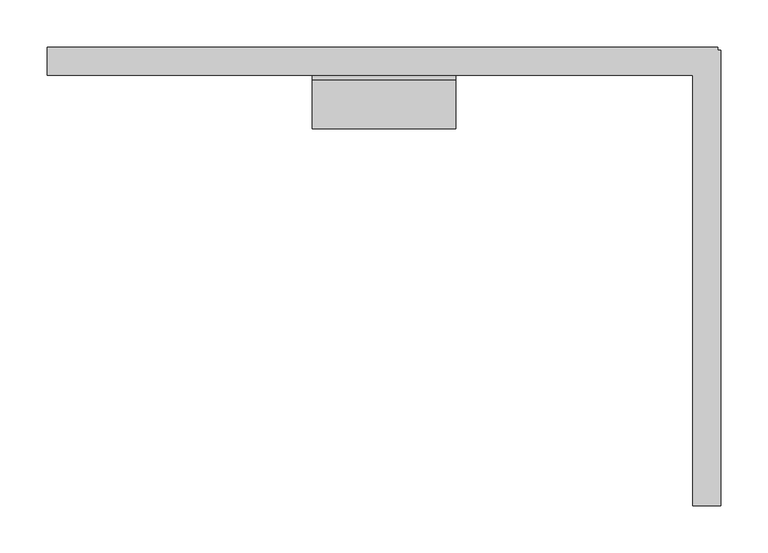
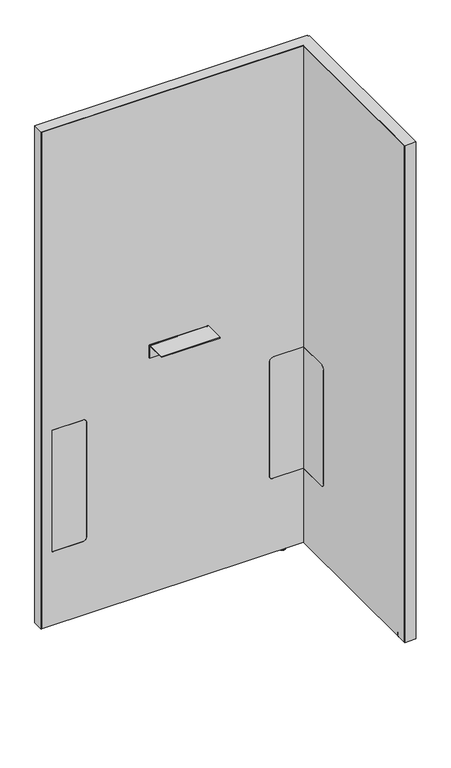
"""IFC4 building model written with IfcOpenShell, lengths in millimetres: furniture geometry, Steelcase - Answer Solution - Boundary Screen - L Return - Single Sided : 54H x 27W."""

import ifcopenshell
import ifcopenshell.guid

model = None  # the IFC model being written
_history = None  # IfcOwnerHistory: only IFC2X3 demands one
_inside = {}  # id of a spatial element -> (the spatial element, [elements in it])
_under = {}  # id of a project, library or spatial element -> (it, [spatial elements below it])
_declared = {}  # id of a project -> (the project, [libraries it declares])
_typed = {}  # id of a type object -> (the type object, [elements of that type])
_made_of = {}  # id of a material, layer set ... -> (it, [elements and type objects made of it])


def new_model(schema):
    """Start an empty IFC model of exactly this schema.

    Asked for "IFC4X3", IfcOpenShell would pick the latest addendum, in which some entities
    have other attributes; the version numbers below select the first issue.
    IFC2X3 requires an IfcOwnerHistory on every rooted entity: one is made here for all.
    """
    global model, _history
    if schema == "IFC4X3":
        model = ifcopenshell.file(schema_version=(4, 3, 0, 0))
    else:
        model = ifcopenshell.file(schema=schema)
    _inside.clear()
    _under.clear()
    _declared.clear()
    _typed.clear()
    _made_of.clear()
    _history = None
    if model.schema == "IFC2X3":
        org = make("IfcOrganization", Name="unknown")
        user = make(
            "IfcPersonAndOrganization",
            ThePerson=make("IfcPerson", FamilyName="unknown"),
            TheOrganization=org,
        )
        app = make(
            "IfcApplication",
            ApplicationDeveloper=org,
            Version="unknown",
            ApplicationFullName="unknown",
            ApplicationIdentifier="unknown",
        )
        _history = make(
            "IfcOwnerHistory",
            OwningUser=user,
            OwningApplication=app,
            ChangeAction="ADDED",
            CreationDate=0,
        )
    return model


def make(cls, **values):
    """One entity of the class cls with the attributes given. An attribute that is None is left unset."""
    return model.create_entity(
        cls, **{name: value for name, value in values.items() if value is not None}
    )


def rooted(cls, **values):
    """An entity with a GlobalId (a new one), such as an element, a storey or a relation."""
    return make(cls, GlobalId=ifcopenshell.guid.new(), OwnerHistory=_history, **values)


def si_unit(unit_type, name, prefix=None):
    """IfcSIUnit, for example si_unit("LENGTHUNIT", "METRE", prefix="MILLI")."""
    return make("IfcSIUnit", UnitType=unit_type, Prefix=prefix, Name=name)


def assignment(units):
    """IfcUnitAssignment: the units of a project."""
    return None if units is None else make("IfcUnitAssignment", Units=units)


def point(xyz):
    """IfcCartesianPoint."""
    return None if xyz is None else make("IfcCartesianPoint", Coordinates=xyz)


def direction(xyz):
    """IfcDirection."""
    return None if xyz is None else make("IfcDirection", DirectionRatios=xyz)


def frame(location, z_axis=None, x_axis=None):
    """IfcAxis2Placement3D, a coordinate frame: its origin and axes. An axis left out is left unset."""
    return make(
        "IfcAxis2Placement3D",
        Location=point(location),
        Axis=direction(z_axis),
        RefDirection=direction(x_axis),
    )


def frame_2d(location, x_axis=None):
    """IfcAxis2Placement2D, a coordinate frame in the plane: its origin and x axis."""
    return make(
        "IfcAxis2Placement2D", Location=point(location), RefDirection=direction(x_axis)
    )


def origin():
    """The frame at (0, 0, 0) with its axes left unset."""
    return frame((0.0, 0.0, 0.0))


def place(relative_to, where):
    """IfcLocalPlacement: puts the frame where relative to a parent placement (None: the world)."""
    return make(
        "IfcLocalPlacement", PlacementRelTo=relative_to, RelativePlacement=where
    )


def context(
    kind, dimensions, precision=None, world=None, true_north=None, identifier=None
):
    """IfcGeometricRepresentationContext, for example the 3D "Model" context."""
    return make(
        "IfcGeometricRepresentationContext",
        ContextIdentifier=identifier,
        ContextType=kind,
        CoordinateSpaceDimension=dimensions,
        Precision=precision,
        WorldCoordinateSystem=world,
        TrueNorth=true_north,
    )


def project(units=None, contexts=None):
    """IfcProject with its units and contexts."""
    return rooted(
        "IfcProject",
        Name="project",
        RepresentationContexts=contexts,
        UnitsInContext=assignment(units),
    )


def spatial(cls, under=None, at=None, **own):
    """A site, building, storey or space (cls), placed at a placement, below another one or the project."""
    s = rooted(cls, ObjectPlacement=at, **own)
    if under is not None:
        _under.setdefault(under.id(), (under, []))[1].append(s)
    return s


def polyline(points):
    """IfcPolyline through the points."""
    return make("IfcPolyline", Points=[point(p) for p in points])


def circle_curve(where, radius):
    """IfcCircle in the frame where."""
    return make("IfcCircle", Position=where, Radius=radius)


def ellipse_curve(where, semi_axis1, semi_axis2):
    """IfcEllipse in the frame where."""
    return make(
        "IfcEllipse", Position=where, SemiAxis1=semi_axis1, SemiAxis2=semi_axis2
    )


def trimmed(basis, trim1, trim2, sense, master):
    """IfcTrimmedCurve: the piece of a basis curve between two trims."""
    return make(
        "IfcTrimmedCurve",
        BasisCurve=basis,
        Trim1=trim1,
        Trim2=trim2,
        SenseAgreement=sense,
        MasterRepresentation=master,
    )


def segment(curve, same_sense, transition):
    """IfcCompositeCurveSegment."""
    return make(
        "IfcCompositeCurveSegment",
        Transition=transition,
        SameSense=same_sense,
        ParentCurve=curve,
    )


def composite_curve(segments, self_intersect=None):
    """IfcCompositeCurve: segments joined end to end."""
    return make("IfcCompositeCurve", Segments=segments, SelfIntersect=self_intersect)


def outline(outer, holes=None, kind="AREA"):
    """IfcArbitraryClosedProfileDef: a profile drawn as a closed curve; with holes, ...WithVoids."""
    if holes is None:
        return make("IfcArbitraryClosedProfileDef", ProfileType=kind, OuterCurve=outer)
    return make(
        "IfcArbitraryProfileDefWithVoids",
        ProfileType=kind,
        OuterCurve=outer,
        InnerCurves=holes,
    )


def extrude(swept, where, along, depth):
    """IfcExtrudedAreaSolid: the profile swept, set in the frame where, extruded along a direction by depth."""
    return make(
        "IfcExtrudedAreaSolid",
        SweptArea=swept,
        Position=where,
        ExtrudedDirection=direction(along),
        Depth=depth,
    )


def faces_of(points, faces, orient=None, outer=None):
    """IfcFace entities. A face is a list of loops; a loop is a list of indices into points, from 0.

    orient and outer hold one flag for each loop. By default every Orientation is true, the
    first loop of a face is its IfcFaceOuterBound and the others are IfcFaceBound.
    """
    made = []
    for i, loops in enumerate(faces):
        bounds = []
        for j, loop in enumerate(loops):
            is_outer = j == 0 if outer is None else outer[i][j]
            bounds.append(
                make(
                    "IfcFaceOuterBound" if is_outer else "IfcFaceBound",
                    Bound=make("IfcPolyLoop", Polygon=[points[k] for k in loop]),
                    Orientation=True if orient is None else orient[i][j],
                )
            )
        made.append(make("IfcFace", Bounds=bounds))
    return made


def faceted_brep(points, faces, orient=None, outer=None, voids=None):
    """IfcFacetedBrep: a solid bounded by flat faces; with voids (closed shells), ...WithVoids."""
    shared = [point(p) for p in points]
    hull = make("IfcClosedShell", CfsFaces=faces_of(shared, faces, orient, outer))
    if voids is None:
        return make("IfcFacetedBrep", Outer=hull)
    return make(
        "IfcFacetedBrepWithVoids",
        Outer=hull,
        Voids=[
            make(cls, CfsFaces=faces_of(shared, fs, o, b)) for cls, fs, o, b in voids
        ],
    )


def shape(context_of_items, identifier, shape_type, items):
    """IfcShapeRepresentation: the items that make up one representation, for example the "Body"."""
    return make(
        "IfcShapeRepresentation",
        ContextOfItems=context_of_items,
        RepresentationIdentifier=identifier,
        RepresentationType=shape_type,
        Items=items,
    )


def source(mapping_origin, context_of_items, identifier, shape_type, items):
    """IfcRepresentationMap: a shape defined once, which mapped items show again and again."""
    return make(
        "IfcRepresentationMap",
        MappingOrigin=mapping_origin,
        MappedRepresentation=shape(context_of_items, identifier, shape_type, items),
    )


def transform(
    local_origin,
    x_axis=None,
    y_axis=None,
    z_axis=None,
    scale=None,
    scale2=None,
    scale3=None,
    uniform=True,
):
    """IfcCartesianTransformationOperator3D, or its non-uniform kind. x_axis, y_axis, z_axis: its Axis1, 2, 3."""
    if uniform:
        return make(
            "IfcCartesianTransformationOperator3D",
            Axis1=direction(x_axis),
            Axis2=direction(y_axis),
            LocalOrigin=point(local_origin),
            Scale=scale,
            Axis3=direction(z_axis),
        )
    return make(
        "IfcCartesianTransformationOperator3DnonUniform",
        Axis1=direction(x_axis),
        Axis2=direction(y_axis),
        LocalOrigin=point(local_origin),
        Scale=scale,
        Axis3=direction(z_axis),
        Scale2=scale2,
        Scale3=scale3,
    )


def mapped(mapping_source, mapping_target):
    """IfcMappedItem: shows the shape of a source again, moved by a transform."""
    return make(
        "IfcMappedItem", MappingSource=mapping_source, MappingTarget=mapping_target
    )


def made_of(thing, what):
    """Note that an element or type object is made of a material, layer set ...; save() writes the relation."""
    if what is not None:
        _made_of.setdefault(what.id(), (what, []))[1].append(thing)
    return thing


def element(
    cls,
    number,
    at=None,
    inside=None,
    cuts=None,
    type_object=None,
    material=None,
    context=None,
    identifier="Body",
    shape_type=None,
    held_by="IfcProductDefinitionShape",
    body=None,
    shapes=None,
    **own,
):
    """One element of the class cls, such as IfcWall. Its Tag is "e" and its number.

    at: its placement. inside: the storey or other place that contains it. cuts: it is an
    opening in that element (IfcRelVoidsElement). A single representation is given by context,
    identifier, shape_type and body (its items); several are given by shapes. held_by: the class
    of the entity that holds the representations. save() writes the other relations.
    """
    e = rooted(cls, Tag="e%d" % number, ObjectPlacement=at, **own)
    if body is not None:
        shapes = [shape(context, identifier, shape_type, body)]
    if shapes is not None:
        e.Representation = make(held_by, Representations=shapes)
    if inside is not None:
        _inside.setdefault(inside.id(), (inside, []))[1].append(e)
    if cuts is not None:
        rooted(
            "IfcRelVoidsElement", RelatingBuildingElement=cuts, RelatedOpeningElement=e
        )
    if type_object is not None:
        _typed.setdefault(type_object.id(), (type_object, []))[1].append(e)
    return made_of(e, material)


def aggregate(whole, parts):
    """IfcRelAggregates: a whole, such as a stair, and the parts it consists of."""
    return rooted("IfcRelAggregates", RelatingObject=whole, RelatedObjects=parts)


def save(model, path):
    """Write the relations noted so far, then the file.

    IfcRelAggregates (storeys below a building ...), IfcRelContainedInSpatialStructure (elements
    in a storey), IfcRelDefinesByType, IfcRelAssociatesMaterial and IfcRelDeclares: one each for
    every whole, place, type object, material and project.
    """
    for whole, parts in _under.values():
        aggregate(whole, parts)
    for where, things in _inside.values():
        rooted(
            "IfcRelContainedInSpatialStructure",
            RelatedElements=things,
            RelatingStructure=where,
        )
    for kind, things in _typed.values():
        rooted("IfcRelDefinesByType", RelatedObjects=things, RelatingType=kind)
    for what, things in _made_of.values():
        rooted("IfcRelAssociatesMaterial", RelatedObjects=things, RelatingMaterial=what)
    for by, libraries in _declared.values():
        rooted("IfcRelDeclares", RelatingContext=by, RelatedDefinitions=libraries)
    model.write(path)


def plane_surface(at):
    """IfcPlane: the flat surface through the origin of the frame at, square to its z axis."""
    return make("IfcPlane", Position=at)


def cylinder_surface(at, radius):
    """IfcCylindricalSurface: all points at the distance radius from the z axis of the frame at."""
    return make("IfcCylindricalSurface", Position=at, Radius=radius)


def revolved_surface(curve, axis_point, axis_direction):
    """IfcSurfaceOfRevolution: the curve turned about the line through axis_point along axis_direction."""
    return make(
        "IfcSurfaceOfRevolution",
        SweptCurve=make("IfcArbitraryOpenProfileDef", ProfileType="CURVE", Curve=curve),
        AxisPosition=make("IfcAxis1Placement", Location=point(axis_point), Axis=direction(axis_direction)),
    )


def advanced_brep(points, edges, surfaces, faces):
    """IfcAdvancedBrep: a solid bounded by faces that lie on surfaces and meet in shared edges.

    An edge is (start, end): straight between two places in points (the first is 0);
    or (start, end, curve); or (start, end, curve, False) where it runs against its curve.
    A face is (place in surfaces, loops), or (place, loops, False) where it looks against
    its surface's normal. A loop lists edges by number (the first is 1), with a minus sign
    where the edge is run from its end to its start. The first loop is the outer one.
    """
    corners = [point(p) for p in points]
    vertices = [make("IfcVertexPoint", VertexGeometry=c) for c in corners]
    made = []
    for start, end, *more in edges:
        made.append(
            make(
                "IfcEdgeCurve",
                EdgeStart=vertices[start],
                EdgeEnd=vertices[end],
                EdgeGeometry=more[0] if more else make("IfcPolyline", Points=[corners[start], corners[end]]),
                SameSense=more[1] if len(more) > 1 else True,
            )
        )
    hull = []
    for where, loops, *sense in faces:
        bounds = []
        for j, loop in enumerate(loops):
            ring = [make("IfcOrientedEdge", EdgeElement=made[abs(k) - 1], Orientation=k > 0) for k in loop]
            bounds.append(
                make(
                    "IfcFaceOuterBound" if j == 0 else "IfcFaceBound",
                    Bound=make("IfcEdgeLoop", EdgeList=ring),
                    Orientation=True,
                )
            )
        hull.append(make("IfcAdvancedFace", Bounds=bounds, FaceSurface=surfaces[where], SameSense=sense[0] if sense else True))
    return make("IfcAdvancedBrep", Outer=make("IfcClosedShell", CfsFaces=hull))


def furniture_b410c2c3(model_context):
    return source(origin(), model_context, "Body", "SolidModel", [
        extrude(outline(composite_curve([segment(polyline([(-109.3501471, 549.6162029), (-29.0550397, 549.6162029), (-29.0550397, 213.7762137), (-109.3501471, 213.7762137)]), True, "CONTINUOUS"), segment(trimmed(circle_curve(frame_2d((-109.3501471, 223.9362137)), 10.16), [point((-109.3501471, 213.7762137))], [point((-119.5101471, 223.9362137))], False, "CARTESIAN"), True, "CONTINUOUS"), segment(polyline([(-119.5101471, 223.9362137), (-119.5101471, 539.4562029)]), True, "CONTINUOUS"), segment(trimmed(circle_curve(frame_2d((-109.3501471, 539.4562029)), 10.16), [point((-119.5101471, 539.4562029))], [point((-109.3501471, 549.6162029))], False, "CARTESIAN"), True, "CONTINUOUS")], self_intersect=False)), frame((915.6191891, 0.0, 0.0), z_axis=(1.0, 0.0, 0.0), x_axis=(0.0, 1.0, 0.0)), (0.0, 0.0, 1.0), 0.6401544),
        advanced_brep(
        [(930.4672074, -448.0136072, 0.0), (937.4216144, -448.0136072, 0.0), (923.5128003, -448.0136072, 0.0), (938.8762685, -448.0136072, 1.2700001), (922.0581463, -448.0136072, 1.2700001), (938.8762685, -448.0136072, 2.9673238), (922.0581463, -448.0136072, 2.9673238), (939.8427877, -448.0136072, 2.9673238), (921.091627, -448.0136072, 2.9673238), (939.8427877, -448.0136072, 9.9059849), (921.091627, -448.0136072, 9.9059849), (930.4672074, -448.0136072, 9.9059849)],
        [
            (0, 1),
            (1, 2, circle_curve(frame((930.4672074, -448.0136072, 0.0), z_axis=(0.0, 0.0, -1.0), x_axis=(1.0, 0.0, 0.0)), 6.9544071)),
            (2, 0),
            (2, 1, circle_curve(frame((930.4672074, -448.0136072, 0.0), z_axis=(0.0, 0.0, -1.0), x_axis=(1.0, 0.0, 0.0)), 6.9544071)),
            (1, 3, circle_curve(frame((937.5945484, -448.0136072, 1.2700001), z_axis=(0.0, -1.0, 0.0), x_axis=(0.0, 0.0, 1.0)), 1.2817201)),
            (3, 4, circle_curve(frame((930.4672074, -448.0136072, 1.2700001), z_axis=(0.0, 0.0, -1.0), x_axis=(1.0, 0.0, 0.0)), 8.4090611)),
            (4, 2, circle_curve(frame((923.3398663, -448.0136072, 1.2700001), z_axis=(0.0, -1.0, 0.0), x_axis=(0.0, 0.0, 1.0)), 1.2817201)),
            (4, 3, circle_curve(frame((930.4672074, -448.0136072, 1.2700001), z_axis=(0.0, 0.0, -1.0), x_axis=(1.0, 0.0, 0.0)), 8.4090611)),
            (3, 5),
            (5, 6, circle_curve(frame((930.4672074, -448.0136072, 2.9673238), z_axis=(0.0, 0.0, -1.0), x_axis=(1.0, 0.0, 0.0)), 8.4090611)),
            (6, 4),
            (6, 5, circle_curve(frame((930.4672074, -448.0136072, 2.9673238), z_axis=(0.0, 0.0, -1.0), x_axis=(1.0, 0.0, 0.0)), 8.4090611)),
            (5, 7),
            (7, 8, circle_curve(frame((930.4672074, -448.0136072, 2.9673238), z_axis=(0.0, 0.0, -1.0), x_axis=(1.0, 0.0, 0.0)), 9.3755804)),
            (8, 6),
            (8, 7, circle_curve(frame((930.4672074, -448.0136072, 2.9673238), z_axis=(0.0, 0.0, -1.0), x_axis=(1.0, 0.0, 0.0)), 9.3755804)),
            (7, 9),
            (9, 10, circle_curve(frame((930.4672074, -448.0136072, 9.9059849), z_axis=(0.0, 0.0, -1.0), x_axis=(1.0, 0.0, 0.0)), 9.3755804)),
            (10, 8),
            (10, 9, circle_curve(frame((930.4672074, -448.0136072, 9.9059849), z_axis=(0.0, 0.0, -1.0), x_axis=(1.0, 0.0, 0.0)), 9.3755804)),
            (9, 11),
            (11, 10),
        ],
        [
            plane_surface(frame((930.4672074, -448.0136072, 0.0), z_axis=(0.0, 0.0, -1.0), x_axis=(1.0, 0.0, 0.0))),
            revolved_surface(trimmed(ellipse_curve(frame((937.5945484, -448.0136072, 1.2700001), z_axis=(0.0, 1.0, 0.0), x_axis=(0.0, 0.0, 1.0)), 1.2817201, 1.2817201), [point((938.8762685, -448.0136072, 1.2700001))], [point((937.4216144, -448.0136072, 0.0))], True, "CARTESIAN"), (930.4672074, -448.0136072, 9.9059849), (0.0, 0.0, -1.0)),
            cylinder_surface(frame((930.4672074, -448.0136072, 9.9059849), z_axis=(0.0, 0.0, -1.0), x_axis=(1.0, 0.0, 0.0)), 8.4090611),
            plane_surface(frame((930.4672074, -448.0136072, 2.9673238), z_axis=(0.0, 0.0, -1.0), x_axis=(1.0, 0.0, 0.0))),
            cylinder_surface(frame((930.4672074, -448.0136072, 9.9059849), z_axis=(0.0, 0.0, -1.0), x_axis=(1.0, 0.0, 0.0)), 9.3755804),
            plane_surface(frame((930.4672074, -448.0136072, 9.9059849), z_axis=(0.0, 0.0, 1.0), x_axis=(1.0, 0.0, 0.0))),
        ],
        [
            (0, [[1, 2, 3]]),
            (0, [[-3, 4, -1]]),
            (1, [[-2, 5, 6, 7]]),
            (1, [[-4, -7, 8, -5]]),
            (2, [[-6, 9, 10, 11]]),
            (2, [[-8, -11, 12, -9]]),
            (3, [[-10, 13, 14, 15]]),
            (3, [[-12, -15, 16, -13]]),
            (4, [[-14, 17, 18, 19]]),
            (4, [[-16, -19, 20, -17]]),
            (5, [[-18, 21, 22]]),
            (5, [[-20, -22, -21]]),
        ],
    ),
        faceted_brep([(942.0531179, 0.0, 1382.522), (942.0531179, 0.0, 9.9059849), (941.0621491, 0.0, 9.9059849), (941.0621491, 0.0, 1381.542118), (230.8097779, 0.0, 1381.542118), (230.8097779, 0.0, 9.9059849), (229.8191891, 0.0, 9.9059849), (229.8191891, 0.0, 1382.522), (229.8191891, -29.6898332, 1382.522), (229.8191891, -29.6898332, 9.9059849), (230.8097779, -29.6898332, 9.9059849), (230.8097779, -29.6898332, 1381.542118), (915.6191891, -29.6898332, 1381.542118), (915.6191891, -29.6898332, 1382.522), (941.0621491, -29.6898332, 1381.542118), (941.0621491, -29.6898332, 9.9059849), (942.0531179, -29.6898332, 9.9059849), (942.0531179, -29.6898332, 1381.542118), (942.0531179, -3.2625916, 1382.522), (942.0531179, -3.2625916, 9.9059849), (942.0531179, -4.252647, 9.9059849), (942.0531179, -4.252647, 1381.542118), (945.3152256, -3.2625916, 9.9059849), (945.3152256, -4.252647, 9.9059849), (941.0621491, -4.252647, 9.9059849), (915.6191891, -4.252647, 9.9059849), (915.6191891, -3.2625916, 9.9059849), (941.0621491, -3.2625916, 9.9059849), (915.6191891, -486.8898332, 1382.522), (945.3152256, -486.8898332, 1382.522), (945.3152256, -3.2625916, 1382.522), (941.0621491, -3.2625916, 1381.542118), (941.0621491, -4.252647, 1381.542118), (915.6191891, -3.2625916, 1381.542118), (915.6191891, -4.252647, 1381.542118), (945.3152256, -4.252647, 1381.542118), (945.3152256, -485.899196, 1381.542118), (915.6191891, -485.899196, 1381.542118), (915.6191891, -485.899196, 9.9059849), (915.6191891, -486.8898332, 9.9059849), (945.3152256, -486.8898332, 9.9059849), (945.3152256, -485.899196, 9.9059849)], [[[0, 1, 2, 3, 4, 5, 6, 7]], [[8, 9, 10, 11, 12, 13]], [[14, 15, 16, 17]], [[1, 0, 18, 19]], [[17, 16, 20, 21]], [[2, 1, 19, 22, 23, 20, 16, 15, 24, 25, 26, 27]], [[7, 6, 9, 8]], [[0, 7, 8, 13, 28, 29, 30, 18]], [[3, 2, 27, 31]], [[15, 14, 32, 24]], [[4, 3, 31, 33, 34, 32, 14, 17, 21, 35, 36, 37, 12, 11]], [[5, 4, 11, 10]], [[6, 5, 10, 9]], [[26, 25, 34, 33]], [[37, 38, 39, 28, 13, 12]], [[29, 40, 41, 36, 35, 23, 22, 30]], [[27, 26, 33, 31]], [[30, 22, 19, 18]], [[34, 25, 24, 32]], [[23, 35, 21, 20]], [[38, 37, 36, 41]], [[39, 38, 41, 40]], [[28, 39, 40, 29]]]),
        extrude(outline(composite_curve([segment(polyline([(-86.8398151, 696.4680019), (-86.8398151, 698.5), (-34.9450855, 698.5)]), True, "CONTINUOUS"), segment(trimmed(circle_curve(frame_2d((-34.9450855, 693.2447477)), 5.2552523), [point((-34.9450855, 698.5))], [point((-29.6898332, 693.2447477))], False, "CARTESIAN"), True, "CONTINUOUS"), segment(polyline([(-29.6898332, 693.2447477), (-29.6898332, 660.4), (-31.7218162, 660.4), (-31.7218162, 693.0058743)]), True, "CONTINUOUS"), segment(trimmed(circle_curve(frame_2d((-35.1839438, 693.0058743)), 3.4621276), [point((-31.7218162, 693.0058743))], [point((-35.1839438, 696.4680019))], True, "CARTESIAN"), True, "CONTINUOUS"), segment(polyline([(-35.1839438, 696.4680019), (-86.8398151, 696.4680019)]), True, "CONTINUOUS")], self_intersect=False)), frame((511.3685899, 0.0, 0.0), z_axis=(1.0, 0.0, 0.0), x_axis=(0.0, 1.0, 0.0)), (0.0, 0.0, 1.0), 152.4000969),
        advanced_brep(
        [(868.1246853, -23.7588726, 9.9059849), (868.1246853, -5.9309607, 9.9059849), (868.1246853, -14.8449166, 9.9059849), (868.1246853, -23.7588726, 2.9673238), (868.1246853, -5.9309607, 2.9673238), (868.1246853, -22.7915354, 2.9673238), (868.1246853, -6.8982978, 2.9673238), (868.1246853, -22.7915354, 1.6569081), (868.1246853, -6.8982978, 1.6569081), (868.1246853, -21.1346274, 0.0), (868.1246853, -8.5552059, 0.0), (868.1246853, -14.8449166, 0.0)],
        [
            (0, 1, circle_curve(frame((868.1246853, -14.8449166, 9.9059849), z_axis=(0.0, 0.0, 1.0), x_axis=(0.0, 1.0, 0.0)), 8.913956)),
            (1, 2),
            (2, 0),
            (1, 0, circle_curve(frame((868.1246853, -14.8449166, 9.9059849), z_axis=(0.0, 0.0, 1.0), x_axis=(0.0, 1.0, 0.0)), 8.913956)),
            (3, 4, circle_curve(frame((868.1246853, -14.8449166, 2.9673238), z_axis=(0.0, 0.0, 1.0), x_axis=(0.0, 1.0, 0.0)), 8.913956)),
            (4, 1),
            (0, 3),
            (4, 3, circle_curve(frame((868.1246853, -14.8449166, 2.9673238), z_axis=(0.0, 0.0, 1.0), x_axis=(0.0, 1.0, 0.0)), 8.913956)),
            (5, 6, circle_curve(frame((868.1246853, -14.8449166, 2.9673238), z_axis=(0.0, 0.0, 1.0), x_axis=(0.0, 1.0, 0.0)), 7.9466188)),
            (6, 4),
            (3, 5),
            (6, 5, circle_curve(frame((868.1246853, -14.8449166, 2.9673238), z_axis=(0.0, 0.0, 1.0), x_axis=(0.0, 1.0, 0.0)), 7.9466188)),
            (7, 8, circle_curve(frame((868.1246853, -14.8449166, 1.6569081), z_axis=(0.0, 0.0, 1.0), x_axis=(0.0, 1.0, 0.0)), 7.9466188)),
            (8, 6),
            (5, 7),
            (8, 7, circle_curve(frame((868.1246853, -14.8449166, 1.6569081), z_axis=(0.0, 0.0, 1.0), x_axis=(0.0, 1.0, 0.0)), 7.9466188)),
            (9, 10, circle_curve(frame((868.1246853, -14.8449166, 0.0), z_axis=(0.0, 0.0, 1.0), x_axis=(0.0, 1.0, 0.0)), 6.2897107)),
            (10, 8, circle_curve(frame((868.1246853, -8.5552059, 1.6569081), z_axis=(1.0, 0.0, 0.0), x_axis=(0.0, 1.0, 0.0)), 1.6569081)),
            (7, 9, circle_curve(frame((868.1246853, -21.1346274, 1.6569081), z_axis=(1.0, 0.0, 0.0), x_axis=(0.0, -1.0, 0.0)), 1.6569081)),
            (10, 9, circle_curve(frame((868.1246853, -14.8449166, 0.0), z_axis=(0.0, 0.0, 1.0), x_axis=(0.0, 1.0, 0.0)), 6.2897107)),
            (11, 10),
            (9, 11),
        ],
        [
            plane_surface(frame((868.1246853, -14.8449166, 9.9059849), z_axis=(0.0, 0.0, 1.0), x_axis=(0.0, 1.0, 0.0))),
            cylinder_surface(frame((868.1246853, -14.8449166, 9.9059849), z_axis=(0.0, 0.0, -1.0), x_axis=(0.0, 1.0, 0.0)), 8.913956),
            plane_surface(frame((868.1246853, -14.8449166, 2.9673238), z_axis=(0.0, 0.0, -1.0), x_axis=(0.0, 1.0, 0.0))),
            cylinder_surface(frame((868.1246853, -14.8449166, 9.9059849), z_axis=(0.0, 0.0, -1.0), x_axis=(0.0, 1.0, 0.0)), 7.9466188),
            revolved_surface(trimmed(ellipse_curve(frame((868.1246853, -8.5552059, 1.6569081), z_axis=(-1.0, 0.0, 0.0), x_axis=(0.0, 1.0, 0.0)), 1.6569081, 1.6569081), [point((868.1246853, -6.8982978, 1.6569081))], [point((868.1246853, -8.5552059, 0.0))], True, "CARTESIAN"), (868.1246853, -14.8449166, 9.9059849), (0.0, 0.0, -1.0)),
            plane_surface(frame((868.1246853, -14.8449166, 0.0), z_axis=(0.0, 0.0, -1.0), x_axis=(0.0, 1.0, 0.0))),
        ],
        [
            (0, [[1, 2, 3]]),
            (0, [[4, -3, -2]]),
            (1, [[5, 6, -1, 7]]),
            (1, [[8, -7, -4, -6]]),
            (2, [[9, 10, -5, 11]]),
            (2, [[12, -11, -8, -10]]),
            (3, [[13, 14, -9, 15]]),
            (3, [[16, -15, -12, -14]]),
            (4, [[17, 18, -13, 19]]),
            (4, [[20, -19, -16, -18]]),
            (5, [[21, -17, 22]]),
            (5, [[-22, -20, -21]]),
        ],
    ),
        advanced_brep(
        [(230.8097779, 0.0, 1381.542118), (941.0621491, 0.0, 1381.542118), (941.0621491, 0.0, 9.9059849), (230.8097779, 0.0, 9.9059849), (347.9483813, -29.0550397, 539.4562029), (337.7883813, -29.0550397, 549.6162029), (258.1344836, -29.0550397, 549.6162029), (258.1344836, -29.0550397, 213.7762137), (337.7883813, -29.0550397, 213.7762137), (347.9483813, -29.0550397, 223.9362137), (916.2593435, -29.0550397, 213.7762137), (916.2593435, -29.0550397, 549.6162029), (835.7109268, -29.0550397, 549.6162029), (825.5509268, -29.0550397, 539.4562029), (825.5509268, -29.0550397, 223.9362137), (835.7109268, -29.0550397, 213.7762137), (230.8097779, -29.6898332, 1381.542118), (230.8097779, -29.6898332, 9.9059849), (915.6191891, -29.6898332, 9.9059849), (915.6191891, -29.6898332, 213.7762137), (835.7109268, -29.6898332, 213.7762137), (825.5509268, -29.6898332, 223.9362137), (825.5509268, -29.6898332, 539.4562029), (835.7109268, -29.6898332, 549.6162029), (915.6191891, -29.6898332, 549.6162029), (915.6191891, -29.6898332, 1381.542118), (337.7883813, -29.6898332, 549.6162029), (347.9483813, -29.6898332, 539.4562029), (347.9483813, -29.6898332, 223.9362137), (337.7883813, -29.6898332, 213.7762137), (258.1344836, -29.6898332, 213.7762137), (258.1344836, -29.6898332, 549.6162029), (941.0621491, -4.252647, 9.9059849), (945.3152256, -4.252647, 9.9059849), (945.3152256, -485.899196, 9.9059849), (915.6191891, -485.899196, 9.9059849), (941.0621491, -4.252647, 1381.542118), (915.6191891, -485.899196, 1381.542118), (945.3152256, -485.899196, 1381.542118), (945.3152256, -4.252647, 1381.542118), (916.2593435, -109.3501471, 549.6162029), (915.6191891, -109.3501471, 549.6162029), (916.2593435, -109.3501471, 213.7762137), (916.2593435, -119.5101471, 223.9362137), (916.2593435, -119.5101471, 539.4562029), (915.6191891, -109.3501471, 213.7762137), (915.6191891, -119.5101471, 539.4562029), (915.6191891, -119.5101471, 223.9362137)],
        [
            (0, 1),
            (1, 2),
            (2, 3),
            (3, 0),
            (4, 5, circle_curve(frame((337.7883813, -29.0550397, 539.4562029), z_axis=(0.0, -1.0, 0.0), x_axis=(0.0, 0.0, 1.0)), 10.16)),
            (5, 6),
            (6, 7),
            (7, 8),
            (8, 9, circle_curve(frame((337.7883813, -29.0550397, 223.9362137), z_axis=(0.0, -1.0, 0.0), x_axis=(0.0, 0.0, 1.0)), 10.16)),
            (9, 4),
            (10, 11),
            (11, 12),
            (12, 13, circle_curve(frame((835.7109268, -29.0550397, 539.4562029), z_axis=(0.0, -1.0, 0.0), x_axis=(0.0, 0.0, 1.0)), 10.16)),
            (13, 14),
            (14, 15, circle_curve(frame((835.7109268, -29.0550397, 223.9362137), z_axis=(0.0, -1.0, 0.0), x_axis=(0.0, 0.0, 1.0)), 10.16)),
            (15, 10),
            (16, 17),
            (17, 18),
            (18, 19),
            (19, 20),
            (20, 21, circle_curve(frame((835.7109268, -29.6898332, 223.9362137), z_axis=(0.0, 1.0, 0.0), x_axis=(0.0, 0.0, 1.0)), 10.16)),
            (21, 22),
            (22, 23, circle_curve(frame((835.7109268, -29.6898332, 539.4562029), z_axis=(0.0, 1.0, 0.0), x_axis=(0.0, 0.0, 1.0)), 10.16)),
            (23, 24),
            (24, 25),
            (25, 16),
            (26, 27, circle_curve(frame((337.7883813, -29.6898332, 539.4562029), z_axis=(0.0, 1.0, 0.0), x_axis=(0.0, 0.0, 1.0)), 10.16)),
            (27, 28),
            (28, 29, circle_curve(frame((337.7883813, -29.6898332, 223.9362137), z_axis=(0.0, 1.0, 0.0), x_axis=(0.0, 0.0, 1.0)), 10.16)),
            (29, 30),
            (30, 31),
            (31, 26),
            (16, 0),
            (3, 17),
            (2, 32),
            (32, 33),
            (33, 34),
            (34, 35),
            (35, 18),
            (1, 36),
            (36, 32),
            (25, 37),
            (37, 38),
            (38, 39),
            (39, 36),
            (26, 5),
            (4, 27),
            (9, 28),
            (8, 29),
            (7, 30),
            (6, 31),
            (11, 40),
            (40, 41),
            (41, 24),
            (23, 12),
            (42, 43, circle_curve(frame((916.2593435, -109.3501471, 223.9362137), z_axis=(-1.0, 0.0, 0.0), x_axis=(0.0, 1.0, 0.0)), 10.16)),
            (43, 44),
            (44, 40, circle_curve(frame((916.2593435, -109.3501471, 539.4562029), z_axis=(-1.0, 0.0, 0.0), x_axis=(0.0, 1.0, 0.0)), 10.16)),
            (10, 42),
            (15, 20),
            (19, 45),
            (45, 42),
            (14, 21),
            (13, 22),
            (35, 37),
            (41, 46, circle_curve(frame((915.6191891, -109.3501471, 539.4562029), z_axis=(1.0, 0.0, 0.0), x_axis=(0.0, 1.0, 0.0)), 10.16)),
            (46, 47),
            (47, 45, circle_curve(frame((915.6191891, -109.3501471, 223.9362137), z_axis=(1.0, 0.0, 0.0), x_axis=(0.0, 1.0, 0.0)), 10.16)),
            (38, 34),
            (33, 39),
            (44, 46),
            (43, 47),
        ],
        [
            plane_surface(frame((347.9483813, 0.0, 549.6162029), z_axis=(0.0, 1.0, 0.0), x_axis=(0.0, 0.0, -1.0))),
            plane_surface(frame((347.9483813, -29.0550397, 549.6162029), z_axis=(0.0, -1.0, 0.0), x_axis=(0.0, 0.0, 1.0))),
            plane_surface(frame((941.0621491, -29.6898332, 1381.542118), z_axis=(0.0, -1.0, 0.0), x_axis=(-1.0, 0.0, 0.0))),
            plane_surface(frame((230.8097779, 0.0, 9.9059849), z_axis=(-1.0, 0.0, 0.0), x_axis=(0.0, -1.0, 0.0))),
            plane_surface(frame((941.0621491, 0.0, 9.9059849), z_axis=(0.0, 0.0, -1.0), x_axis=(0.0, -1.0, 0.0))),
            plane_surface(frame((941.0621491, 0.0, 1381.542118), z_axis=(1.0, 0.0, 0.0), x_axis=(0.0, -1.0, 0.0))),
            plane_surface(frame((230.8097779, 0.0, 1381.542118), z_axis=(0.0, 0.0, 1.0), x_axis=(0.0, -1.0, 0.0))),
            revolved_surface(polyline([(337.7883813, -29.6898332, 549.6162029), (337.7883813, -29.0550397, 549.6162029)]), (337.7883813, -29.6898332, 539.4562029), (0.0, -1.0, 0.0)),
            plane_surface(frame((347.9483813, 0.0, 223.9362137), z_axis=(-1.0, 0.0, 0.0), x_axis=(0.0, -1.0, 0.0))),
            revolved_surface(polyline([(337.7883813, -29.6898332, 234.0962137), (337.7883813, -29.0550397, 234.0962137)]), (337.7883813, -29.6898332, 223.9362137), (0.0, -1.0, 0.0)),
            plane_surface(frame((258.1344836, 0.0, 213.7762137), z_axis=(0.0, 0.0, 1.0), x_axis=(0.0, -1.0, 0.0))),
            plane_surface(frame((258.1344836, 0.0, 549.6162029), z_axis=(1.0, 0.0, 0.0), x_axis=(0.0, -1.0, 0.0))),
            plane_surface(frame((337.7883813, 0.0, 549.6162029), z_axis=(0.0, 0.0, -1.0), x_axis=(0.0, -1.0, 0.0))),
            plane_surface(frame((916.2593435, 0.0, 549.6162029), z_axis=(0.0, 0.0, -1.0), x_axis=(0.0, -1.0, 0.0))),
            plane_surface(frame((916.2593435, 0.0, 213.7762137), z_axis=(-1.0, 0.0, 0.0), x_axis=(0.0, -1.0, 0.0))),
            plane_surface(frame((835.7109268, 0.0, 213.7762137), z_axis=(0.0, 0.0, 1.0), x_axis=(0.0, -1.0, 0.0))),
            revolved_surface(polyline([(835.7109268, -29.6898332, 234.0962137), (835.7109268, -29.0550397, 234.0962137)]), (835.7109268, -29.6898332, 223.9362137), (0.0, -1.0, 0.0)),
            plane_surface(frame((825.5509268, 0.0, 539.4562029), z_axis=(1.0, 0.0, 0.0), x_axis=(0.0, -1.0, 0.0))),
            revolved_surface(polyline([(835.7109268, -29.6898332, 549.6162029), (835.7109268, -29.0550397, 549.6162029)]), (835.7109268, -29.6898332, 539.4562029), (0.0, -1.0, 0.0)),
            plane_surface(frame((915.6191891, -485.899196, 1381.542118), z_axis=(-1.0, 0.0, 0.0), x_axis=(0.0, 0.0, 1.0))),
            plane_surface(frame((945.3152256, -485.899196, 1381.542118), z_axis=(1.0, 0.0, 0.0), x_axis=(0.0, 0.0, -1.0))),
            plane_surface(frame((945.3152256, -4.252647, 9.9059849), z_axis=(0.0, 1.0, 0.0), x_axis=(-1.0, 0.0, 0.0))),
            plane_surface(frame((945.3152256, -485.899196, 1381.542118), z_axis=(0.0, -1.0, 0.0), x_axis=(-1.0, 0.0, 0.0))),
            revolved_surface(polyline([(915.6191891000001, -99.1901471, 539.4562029), (916.2593435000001, -99.1901471, 539.4562029)]), (-340.6902705, -109.3501471, 539.4562029), (-1.0, 0.0, 0.0)),
            plane_surface(frame((945.3152256, -119.5101471, 223.9362137), z_axis=(0.0, 1.0, 0.0), x_axis=(-1.0, 0.0, 0.0))),
            revolved_surface(polyline([(915.6191891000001, -99.1901471, 223.9362137), (916.2593435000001, -99.1901471, 223.9362137)]), (-340.6902705, -109.3501471, 223.9362137), (-1.0, 0.0, 0.0)),
        ],
        [
            (0, [[1, 2, 3, 4]]),
            (1, [[5, 6, 7, 8, 9, 10]]),
            (1, [[11, 12, 13, 14, 15, 16]]),
            (2, [[17, 18, 19, 20, 21, 22, 23, 24, 25, 26], [27, 28, 29, 30, 31, 32]]),
            (3, [[-17, 33, -4, 34]]),
            (4, [[-3, 35, 36, 37, 38, 39, -18, -34]]),
            (5, [[-2, 40, 41, -35]]),
            (6, [[-1, -33, -26, 42, 43, 44, 45, -40]]),
            (7, [[-27, 46, -5, 47]]),
            (8, [[-28, -47, -10, 48]]),
            (9, [[-29, -48, -9, 49]]),
            (10, [[-30, -49, -8, 50]]),
            (11, [[-31, -50, -7, 51]]),
            (12, [[-32, -51, -6, -46]]),
            (13, [[52, 53, 54, -24, 55, -12]]),
            (14, [[56, 57, 58, -52, -11, 59]]),
            (15, [[-59, -16, 60, -20, 61, 62]]),
            (16, [[-21, -60, -15, 63]]),
            (17, [[-22, -63, -14, 64]]),
            (18, [[-23, -64, -13, -55]]),
            (19, [[65, -42, -25, -54, 66, 67, 68, -61, -19, -39]]),
            (20, [[69, -37, 70, -44]]),
            (21, [[-70, -36, -41, -45]]),
            (22, [[-65, -38, -69, -43]]),
            (23, [[-66, -53, -58, 71]]),
            (24, [[-67, -71, -57, 72]]),
            (25, [[-68, -72, -56, -62]]),
        ],
    ),
        extrude(outline(composite_curve([segment(polyline([(549.6162029, 337.7883813), (549.6162029, 258.1344836), (213.7762137, 258.1344836), (213.7762137, 337.7883813)]), True, "CONTINUOUS"), segment(trimmed(circle_curve(frame_2d((223.9362137, 337.7883813)), 10.16), [point((213.7762137, 337.7883813))], [point((223.9362137, 347.9483813))], False, "CARTESIAN"), True, "CONTINUOUS"), segment(polyline([(223.9362137, 347.9483813), (539.4562029, 347.9483813)]), True, "CONTINUOUS"), segment(trimmed(circle_curve(frame_2d((539.4562029, 337.7883813)), 10.16), [point((539.4562029, 347.9483813))], [point((549.6162029, 337.7883813))], False, "CARTESIAN"), True, "CONTINUOUS")], self_intersect=False)), frame((0.0, -29.6898332, 0.0), z_axis=(0.0, 1.0, 0.0), x_axis=(0.0, 0.0, 1.0)), (0.0, 0.0, 1.0), 0.6347935),
        extrude(outline(composite_curve([segment(trimmed(circle_curve(frame_2d((539.4562029, 835.7109268)), 10.16), [point((549.6162029, 835.7109268))], [point((539.4562029, 825.5509268))], False, "CARTESIAN"), True, "CONTINUOUS"), segment(polyline([(539.4562029, 825.5509268), (223.9362137, 825.5509268)]), True, "CONTINUOUS"), segment(trimmed(circle_curve(frame_2d((223.9362137, 835.7109268)), 10.16), [point((223.9362137, 825.5509268))], [point((213.7762137, 835.7109268))], False, "CARTESIAN"), True, "CONTINUOUS"), segment(polyline([(213.7762137, 835.7109268), (213.7762137, 915.6191891), (549.6162029, 915.6191891), (549.6162029, 835.7109268)]), True, "CONTINUOUS")], self_intersect=False)), frame((0.0, -29.6898332, 0.0), z_axis=(0.0, 1.0, 0.0), x_axis=(0.0, 0.0, 1.0)), (0.0, 0.0, 1.0), 0.6347935),
    ])


if __name__ == "__main__":
    model = new_model("IFC4")
    model_context = context("Model", 3, world=origin())
    ifc_project = project(units=[si_unit("LENGTHUNIT", "METRE", prefix="MILLI")], contexts=[model_context])
    site = spatial("IfcSite", under=ifc_project)
    building = spatial("IfcBuilding", under=site)
    placement = place(None, origin())
    furniture_shape = furniture_b410c2c3(model_context)
    element("IfcFurniture", 1, ObjectType="Steelcase - Answer Solution - Boundary Screen - L Return - Single Sided : 54H x 27W", at=placement, inside=building, context=model_context, shape_type="MappedRepresentation", body=[
        mapped(furniture_shape, transform((0.0, 0.0, 0.0), x_axis=(1.0, 0.0, 0.0), y_axis=(0.0, 1.0, 0.0), z_axis=(0.0, 0.0, 1.0))),
    ])
    save(model, "model.ifc")
